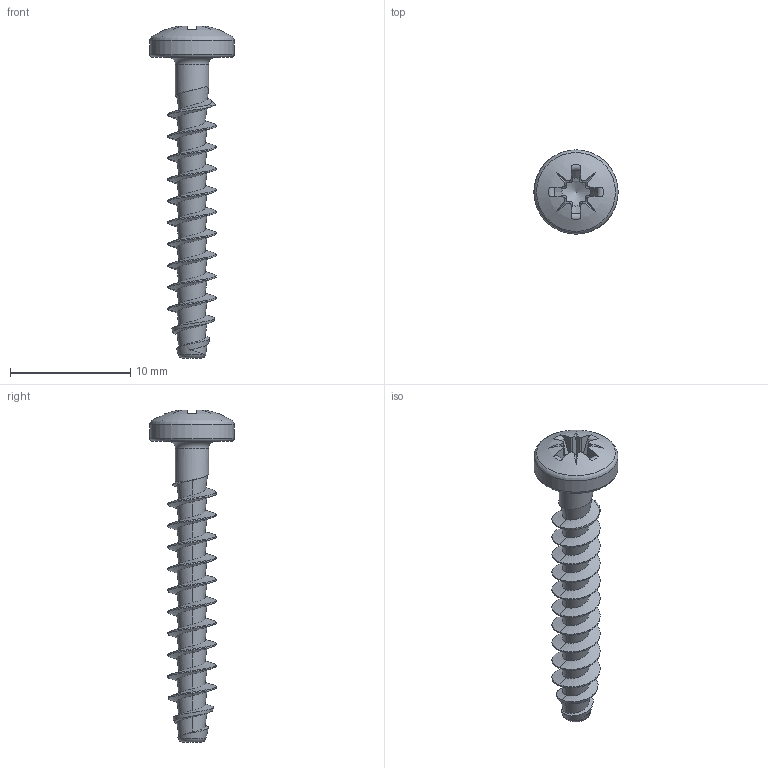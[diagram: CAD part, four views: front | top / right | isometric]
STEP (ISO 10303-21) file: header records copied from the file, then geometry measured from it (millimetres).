
FILE_DESCRIPTION(/* description */ (''),/* implementation_level */ '2;1');
FILE_NAME(/* name */ 'KN1032-Neu-STS-40x25-Z2.step',/* time_stamp */ '2017-10-11T14:14:05+02:00',/* author */ (''),/* organization */ (''),/* preprocessor_version */ 'ST-DEVELOPER v16',/* originating_system */ 'SIEMENS PLM Software NX 10.0',/* authorisation */ '');
FILE_SCHEMA (('AUTOMOTIVE_DESIGN { 1 0 10303 214 3 1 1 1 }'));
Length unit declared in the file: millimetre
Products named in the file (1): KN1032-Neu-STS-40x25-Z2
Bounding box: 7 x 7 x 27.6 mm (x, y, z)
Volume: 213.2 mm3; surface area: 471.4 mm2
Topology: 1 solids, 1 shells, 93 faces, 241 edges, 150 vertices
Faces by surface type: bspline 39, plane 26, cylinder 12, torus 8, cone 7, sphere 1
Full cylindrical faces by diameter (mm): 2.76 x1, 7 x1
Entity records: 5499 total; most frequent: CARTESIAN_POINT 3602, ORIENTED_EDGE 450, DIRECTION 270, EDGE_CURVE 225, VERTEX_POINT 144, B_SPLINE_CURVE_WITH_KNOTS 110, AXIS2_PLACEMENT_3D 101, EDGE_LOOP 100
